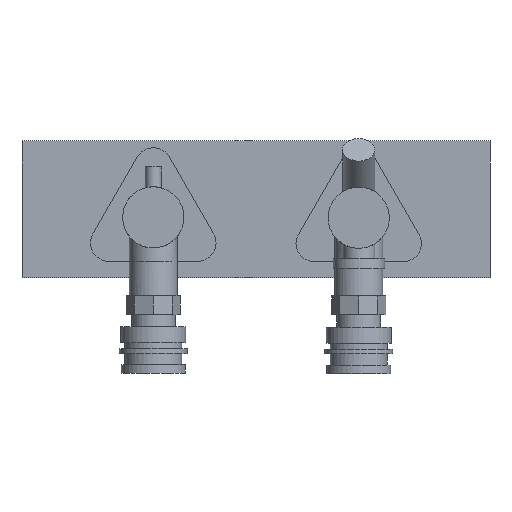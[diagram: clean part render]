
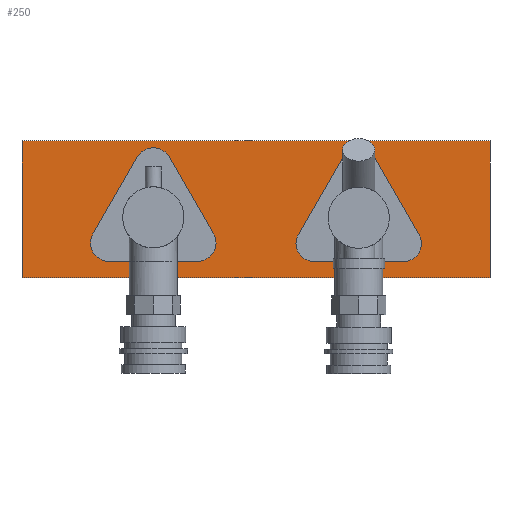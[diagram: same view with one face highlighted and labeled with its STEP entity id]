
A CAD part, front view. The second image highlights one B-rep face of the part: STEP entity #250.
In plain terms, the highlighted planar face has unit normal (0, -1, 0).
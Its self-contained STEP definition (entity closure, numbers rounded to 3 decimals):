
#250=ADVANCED_FACE('',(#374),#375,.T.);
#374=FACE_OUTER_BOUND('',#628,.T.);
#375=PLANE('',#629);
#628=EDGE_LOOP('',(#887,#888,#889,#890));
#629=AXIS2_PLACEMENT_3D('',#891,#892,#893);
#887=ORIENTED_EDGE('',*,*,#1508,.T.);
#888=ORIENTED_EDGE('',*,*,#1509,.T.);
#889=ORIENTED_EDGE('',*,*,#1506,.F.);
#890=ORIENTED_EDGE('',*,*,#1510,.T.);
#891=CARTESIAN_POINT('',(102.5,0.0,30.0));
#892=DIRECTION('',(0.0,-1.0,0.0));
#893=DIRECTION('',(0.0,0.0,-1.0));
#1506=EDGE_CURVE('',#1673,#1675,#1676,.T.);
#1508=EDGE_CURVE('',#1678,#1679,#1680,.T.);
#1509=EDGE_CURVE('',#1679,#1675,#1681,.T.);
#1510=EDGE_CURVE('',#1673,#1678,#1682,.T.);
#1673=VERTEX_POINT('',#1934);
#1675=VERTEX_POINT('',#1937);
#1676=LINE('',#1938,#1939);
#1678=VERTEX_POINT('',#1942);
#1679=VERTEX_POINT('',#1943);
#1680=LINE('',#1944,#1945);
#1681=LINE('',#1946,#1947);
#1682=LINE('',#1948,#1949);
#1934=CARTESIAN_POINT('',(102.5,0.0,-30.0));
#1937=CARTESIAN_POINT('',(-102.5,0.0,-30.0));
#1938=CARTESIAN_POINT('',(102.5,0.0,-30.0));
#1939=VECTOR('',#2673,1.0);
#1942=CARTESIAN_POINT('',(102.5,0.0,30.0));
#1943=CARTESIAN_POINT('',(-102.5,0.0,30.0));
#1944=CARTESIAN_POINT('',(102.5,0.0,30.0));
#1945=VECTOR('',#2675,1.0);
#1946=CARTESIAN_POINT('',(-102.5,0.0,30.0));
#1947=VECTOR('',#2676,1.0);
#1948=CARTESIAN_POINT('',(102.5,0.0,-30.0));
#1949=VECTOR('',#2677,1.0);
#2673=DIRECTION('',(-1.0,0.0,0.0));
#2675=DIRECTION('',(-1.0,0.0,0.0));
#2676=DIRECTION('',(0.0,0.0,-1.0));
#2677=DIRECTION('',(0.0,0.0,1.0));
